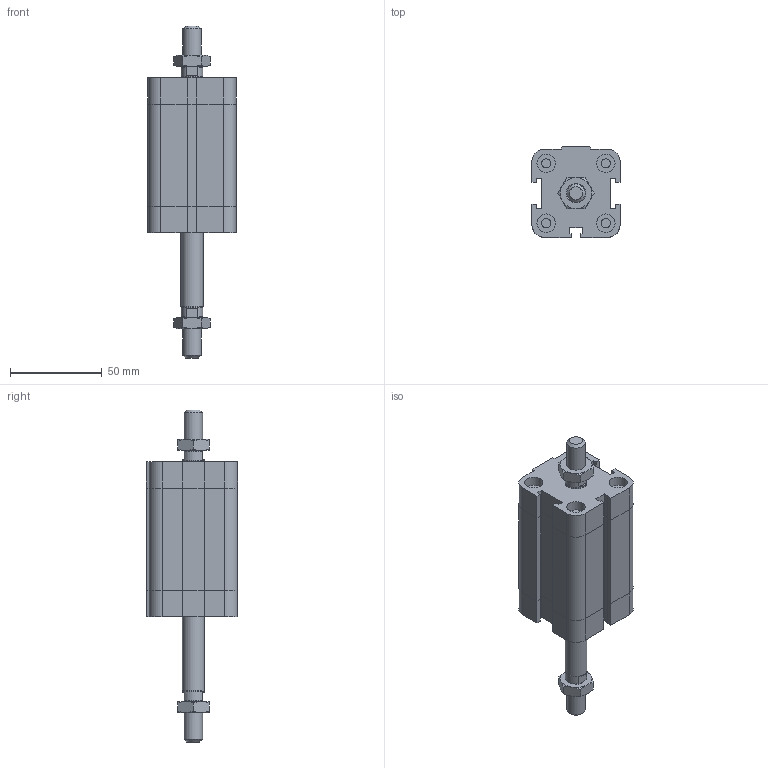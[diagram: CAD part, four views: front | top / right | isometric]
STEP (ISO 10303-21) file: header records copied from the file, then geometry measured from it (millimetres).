
FILE_DESCRIPTION((''),'2;1');
FILE_NAME('I:\Area Tecnica\Disegni\VARIE-3D\Componenti\EUROPE\15##_###_####_04_#\1561_32_0040_04_1.iam.stp','2009-04-20T14:45:08',(''),(''),'Autodesk Inventor 2009','Autodesk Inventor 2009','');
FILE_SCHEMA(('AUTOMOTIVE_DESIGN { 1 0 10303 214 1 1 1 1 }'));
Length unit declared in the file: millimetre
Products named in the file (4): 1561_32_0040_04_1; 1561_32_0040_03_1_C; 1561_32_0040_04_1_S; DBFM10
Assembly tree (4 placements, depth 2):
  1561_32_0040_04_1
    1561_32_0040_03_1_C
    1561_32_0040_04_1_S
    DBFM10  x2
Bounding box: 48 x 49.5 x 180.5 mm (x, y, z)
Volume: 182051.7 mm3; surface area: 38710 mm2
Topology: 4 solids, 4 shells, 222 faces, 483 edges, 289 vertices
Faces by surface type: plane 129, cone 35, bspline 33, cylinder 25
Full cylindrical faces by diameter (mm): 4.917 x4, 8.8 x1, 10 x5, 11.7 x2, 12 x1
Entity records: 5450 total; most frequent: CARTESIAN_POINT 1222, DIRECTION 802, ORIENTED_EDGE 772, EDGE_CURVE 386, AXIS2_PLACEMENT_3D 272, EDGE_LOOP 258, VECTOR 258, LINE 258
